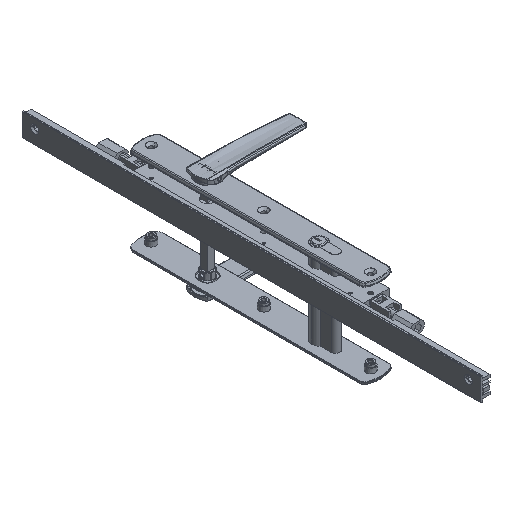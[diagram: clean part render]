
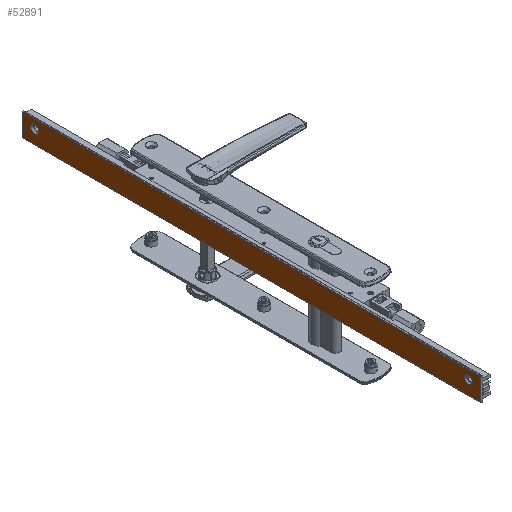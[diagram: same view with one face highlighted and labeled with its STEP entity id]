
A CAD part, isometric view. The second image highlights one B-rep face of the part: STEP entity #52891.
In plain terms, the highlighted planar face has unit normal (-1, 0, 0) as drawn and (0, 1, 0) by its records, which use the part's own axes.
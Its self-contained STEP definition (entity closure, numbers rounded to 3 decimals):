
#174 = CARTESIAN_POINT ( 'NONE',  ( 22., 12.4, 0. ) ) ;
#1378 = VECTOR ( 'NONE', #35254, 1000. ) ;
#2076 = CARTESIAN_POINT ( 'NONE',  ( 22., 12.4, 0. ) ) ;
#3238 = ORIENTED_EDGE ( 'NONE', *, *, #22746, .F. ) ;
#4146 = CIRCLE ( 'NONE', #41703, 4.889 ) ;
#4324 = CIRCLE ( 'NONE', #28309, 4.89 ) ;
#5254 = DIRECTION ( 'NONE',  ( 0., -1., 0. ) ) ;
#6331 = VERTEX_POINT ( 'NONE', #174 ) ;
#7727 = FACE_OUTER_BOUND ( 'NONE', #30210, .T. ) ;
#7955 = CARTESIAN_POINT ( 'NONE',  ( 11.8, 12.4, 10.111 ) ) ;
#8040 = CARTESIAN_POINT ( 'NONE',  ( 20.8, 12.4, 544. ) ) ;
#8070 = DIRECTION ( 'NONE',  ( 0., 0., 1. ) ) ;
#8077 = CARTESIAN_POINT ( 'NONE',  ( -4.4, 12.4, 0. ) ) ;
#8969 = VERTEX_POINT ( 'NONE', #29294 ) ;
#9237 = DIRECTION ( 'NONE',  ( 0., 0., 1. ) ) ;
#10212 = VECTOR ( 'NONE', #8070, 1000. ) ;
#10607 = VECTOR ( 'NONE', #23896, 1000. ) ;
#10791 = DIRECTION ( 'NONE',  ( 0., 1., 0. ) ) ;
#11014 = EDGE_CURVE ( 'NONE', #19461, #23876, #4146, .T. ) ;
#11617 = LINE ( 'NONE', #31955, #10607 ) ;
#11744 = FACE_BOUND ( 'NONE', #13426, .T. ) ;
#12475 = DIRECTION ( 'NONE',  ( 0., 1., 0. ) ) ;
#13426 = EDGE_LOOP ( 'NONE', ( #37145, #34044 ) ) ;
#14350 = CARTESIAN_POINT ( 'NONE',  ( -4.4, 12.4, 544. ) ) ;
#16125 = LINE ( 'NONE', #41486, #10212 ) ;
#16342 = ORIENTED_EDGE ( 'NONE', *, *, #40528, .T. ) ;
#16746 = EDGE_CURVE ( 'NONE', #6331, #8969, #38718, .T. ) ;
#17121 = DIRECTION ( 'NONE',  ( -1., 0., 0. ) ) ;
#17814 = ORIENTED_EDGE ( 'NONE', *, *, #40802, .F. ) ;
#19206 = VECTOR ( 'NONE', #17121, 1000. ) ;
#19461 = VERTEX_POINT ( 'NONE', #23849 ) ;
#19951 = CIRCLE ( 'NONE', #49894, 4.89 ) ;
#21560 = DIRECTION ( 'NONE',  ( 1., 0., 0. ) ) ;
#21736 = ORIENTED_EDGE ( 'NONE', *, *, #21846, .T. ) ;
#21846 = EDGE_CURVE ( 'NONE', #27861, #42129, #16125, .T. ) ;
#21978 = CARTESIAN_POINT ( 'NONE',  ( 11.8, 12.4, 15. ) ) ;
#22387 = VERTEX_POINT ( 'NONE', #7955 ) ;
#22746 = EDGE_CURVE ( 'NONE', #23876, #19461, #41066, .T. ) ;
#23849 = CARTESIAN_POINT ( 'NONE',  ( 11.8, 12.4, 533.889 ) ) ;
#23876 = VERTEX_POINT ( 'NONE', #36608 ) ;
#23896 = DIRECTION ( 'NONE',  ( -1., 0., 0. ) ) ;
#24023 = PLANE ( 'NONE',  #46230 ) ;
#25410 = EDGE_CURVE ( 'NONE', #42734, #22387, #4324, .T. ) ;
#25528 = CARTESIAN_POINT ( 'NONE',  ( 11.8, 12.4, 15. ) ) ;
#25998 = DIRECTION ( 'NONE',  ( 0., 0., 1. ) ) ;
#27832 = DIRECTION ( 'NONE',  ( 0., 0., 1. ) ) ;
#27861 = VERTEX_POINT ( 'NONE', #8077 ) ;
#28088 = FACE_BOUND ( 'NONE', #48997, .T. ) ;
#28309 = AXIS2_PLACEMENT_3D ( 'NONE', #21978, #33504, #25998 ) ;
#29054 = ORIENTED_EDGE ( 'NONE', *, *, #11014, .F. ) ;
#29215 = EDGE_CURVE ( 'NONE', #22387, #42734, #19951, .T. ) ;
#29294 = CARTESIAN_POINT ( 'NONE',  ( 22., 12.4, 544. ) ) ;
#30210 = EDGE_LOOP ( 'NONE', ( #16342, #21736, #17814, #43037 ) ) ;
#31955 = CARTESIAN_POINT ( 'NONE',  ( 20.8, 12.4, 0. ) ) ;
#33504 = DIRECTION ( 'NONE',  ( 0., 1., 0. ) ) ;
#34044 = ORIENTED_EDGE ( 'NONE', *, *, #29215, .F. ) ;
#35254 = DIRECTION ( 'NONE',  ( 0., 0., 1. ) ) ;
#35402 = DIRECTION ( 'NONE',  ( 0., 0., 1. ) ) ;
#35846 = CARTESIAN_POINT ( 'NONE',  ( 11.8, 12.4, 529. ) ) ;
#36608 = CARTESIAN_POINT ( 'NONE',  ( 11.8, 12.4, 524.111 ) ) ;
#37145 = ORIENTED_EDGE ( 'NONE', *, *, #25410, .F. ) ;
#38492 = AXIS2_PLACEMENT_3D ( 'NONE', #47468, #10791, #35402 ) ;
#38718 = LINE ( 'NONE', #2076, #1378 ) ;
#40354 = CARTESIAN_POINT ( 'NONE',  ( 20.8, 12.4, 544. ) ) ;
#40528 = EDGE_CURVE ( 'NONE', #6331, #27861, #11617, .T. ) ;
#40802 = EDGE_CURVE ( 'NONE', #8969, #42129, #44699, .T. ) ;
#41066 = CIRCLE ( 'NONE', #38492, 4.889 ) ;
#41486 = CARTESIAN_POINT ( 'NONE',  ( -4.4, 12.4, 0. ) ) ;
#41703 = AXIS2_PLACEMENT_3D ( 'NONE', #35846, #52211, #27832 ) ;
#42129 = VERTEX_POINT ( 'NONE', #14350 ) ;
#42734 = VERTEX_POINT ( 'NONE', #52272 ) ;
#43037 = ORIENTED_EDGE ( 'NONE', *, *, #16746, .F. ) ;
#44699 = LINE ( 'NONE', #8040, #19206 ) ;
#46230 = AXIS2_PLACEMENT_3D ( 'NONE', #40354, #5254, #21560 ) ;
#47468 = CARTESIAN_POINT ( 'NONE',  ( 11.8, 12.4, 529. ) ) ;
#48997 = EDGE_LOOP ( 'NONE', ( #29054, #3238 ) ) ;
#49894 = AXIS2_PLACEMENT_3D ( 'NONE', #25528, #12475, #9237 ) ;
#52211 = DIRECTION ( 'NONE',  ( 0., 1., 0. ) ) ;
#52272 = CARTESIAN_POINT ( 'NONE',  ( 11.8, 12.4, 19.89 ) ) ;
#52891 = ADVANCED_FACE ( 'NONE', ( #11744, #28088, #7727 ), #24023, .F. ) ;
